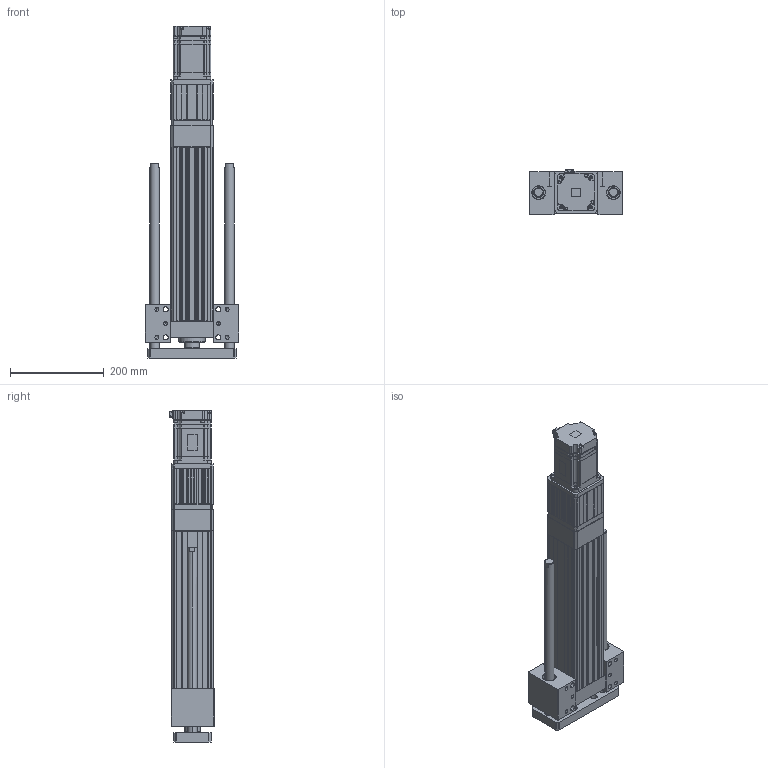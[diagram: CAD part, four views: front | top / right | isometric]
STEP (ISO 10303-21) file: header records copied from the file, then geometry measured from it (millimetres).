
FILE_DESCRIPTION (( 'STEP AP203' ), '1' );
FILE_NAME ('ANS090R-HS250-05(10)(20)-W75.STEP', '2019-03-02T09:20:31', ( 'user' ), ( '' ), 'SwSTEP 2.0', 'SolidWorks 2013', '' );
FILE_SCHEMA (( 'CONFIG_CONTROL_DESIGN' ));
Length unit declared in the file: millimetre
Products named in the file (4): ANS090R HS250 VER2; SGMJV_08A_A21; ANS090 ROD ST250-H; ANS090R-HS250-05(10)(20)-W75
Assembly tree (3 placements, depth 2):
  ANS090R-HS250-05(10)(20)-W75
    ANS090R HS250 VER2
    SGMJV_08A_A21
    ANS090 ROD ST250-H
Bounding box: 200 x 95.8 x 710.1 mm (x, y, z)
Volume: 4300547.9 mm3; surface area: 697126.3 mm2
Topology: 3 solids, 3 shells, 1600 faces, 4288 edges, 2780 vertices
Faces by surface type: plane 982, cylinder 486, cone 128, bspline 4
Entity records: 50298 total; most frequent: CARTESIAN_POINT 9440, ORIENTED_EDGE 8528, DIRECTION 8312, EDGE_CURVE 4264, VECTOR 3080, LINE 3080, VERTEX_POINT 2780, AXIS2_PLACEMENT_3D 2616
